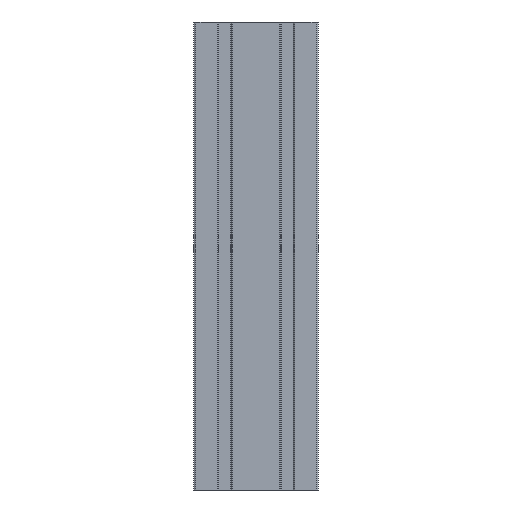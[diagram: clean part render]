
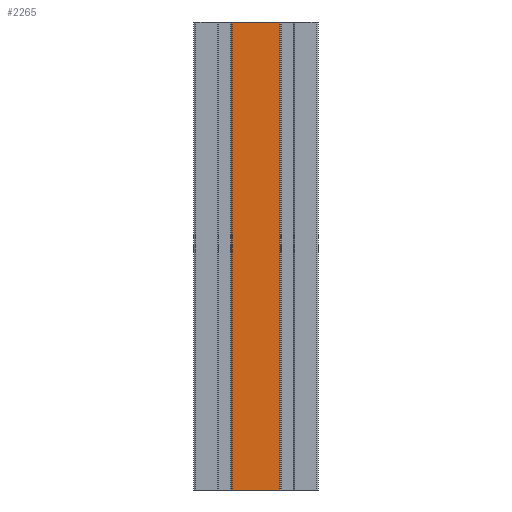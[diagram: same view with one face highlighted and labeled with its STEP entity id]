
A CAD part, front view. The second image highlights one B-rep face of the part: STEP entity #2265.
In plain terms, the highlighted planar face has unit normal (0, -1, 0).
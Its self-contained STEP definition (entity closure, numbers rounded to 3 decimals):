
#125 = VECTOR ( 'NONE', #4808, 1000. ) ;
#244 = VECTOR ( 'NONE', #5440, 1000. ) ;
#489 = VERTEX_POINT ( 'NONE', #4187 ) ;
#534 = CARTESIAN_POINT ( 'NONE',  ( -4.85, -20., 0. ) ) ;
#542 = EDGE_LOOP ( 'NONE', ( #5357, #1258, #3185, #1057 ) ) ;
#751 = CARTESIAN_POINT ( 'NONE',  ( -4.85, -20., 300. ) ) ;
#809 = DIRECTION ( 'NONE',  ( 0., 0., -1. ) ) ;
#842 = DIRECTION ( 'NONE',  ( 1., 0., 0. ) ) ;
#899 = LINE ( 'NONE', #4691, #4051 ) ;
#929 = CARTESIAN_POINT ( 'NONE',  ( 0., -20., 300. ) ) ;
#1049 = EDGE_CURVE ( 'NONE', #5429, #1388, #899, .T. ) ;
#1057 = ORIENTED_EDGE ( 'NONE', *, *, #3594, .T. ) ;
#1149 = CARTESIAN_POINT ( 'NONE',  ( 0., -20., 0. ) ) ;
#1258 = ORIENTED_EDGE ( 'NONE', *, *, #1785, .F. ) ;
#1278 = LINE ( 'NONE', #3069, #125 ) ;
#1370 = DIRECTION ( 'NONE',  ( 0., 1., 0. ) ) ;
#1388 = VERTEX_POINT ( 'NONE', #751 ) ;
#1785 = EDGE_CURVE ( 'NONE', #1388, #3630, #2884, .T. ) ;
#2179 = CARTESIAN_POINT ( 'NONE',  ( -35.15, -20., 300. ) ) ;
#2265 = ADVANCED_FACE ( 'NONE', ( #3453 ), #3488, .F. ) ;
#2547 = EDGE_CURVE ( 'NONE', #489, #3630, #5279, .T. ) ;
#2884 = LINE ( 'NONE', #2939, #5042 ) ;
#2939 = CARTESIAN_POINT ( 'NONE',  ( -4.85, -20., 300. ) ) ;
#3069 = CARTESIAN_POINT ( 'NONE',  ( -35.15, -20., 300. ) ) ;
#3185 = ORIENTED_EDGE ( 'NONE', *, *, #1049, .F. ) ;
#3453 = FACE_OUTER_BOUND ( 'NONE', #542, .T. ) ;
#3488 = PLANE ( 'NONE',  #3934 ) ;
#3594 = EDGE_CURVE ( 'NONE', #5429, #489, #1278, .T. ) ;
#3630 = VERTEX_POINT ( 'NONE', #534 ) ;
#3934 = AXIS2_PLACEMENT_3D ( 'NONE', #929, #1370, #4366 ) ;
#4051 = VECTOR ( 'NONE', #842, 1000. ) ;
#4187 = CARTESIAN_POINT ( 'NONE',  ( -35.15, -20., 0. ) ) ;
#4366 = DIRECTION ( 'NONE',  ( 0., 0., 1. ) ) ;
#4691 = CARTESIAN_POINT ( 'NONE',  ( 0., -20., 300. ) ) ;
#4808 = DIRECTION ( 'NONE',  ( 0., 0., -1. ) ) ;
#5042 = VECTOR ( 'NONE', #809, 1000. ) ;
#5279 = LINE ( 'NONE', #1149, #244 ) ;
#5357 = ORIENTED_EDGE ( 'NONE', *, *, #2547, .T. ) ;
#5429 = VERTEX_POINT ( 'NONE', #2179 ) ;
#5440 = DIRECTION ( 'NONE',  ( 1., 0., 0. ) ) ;
